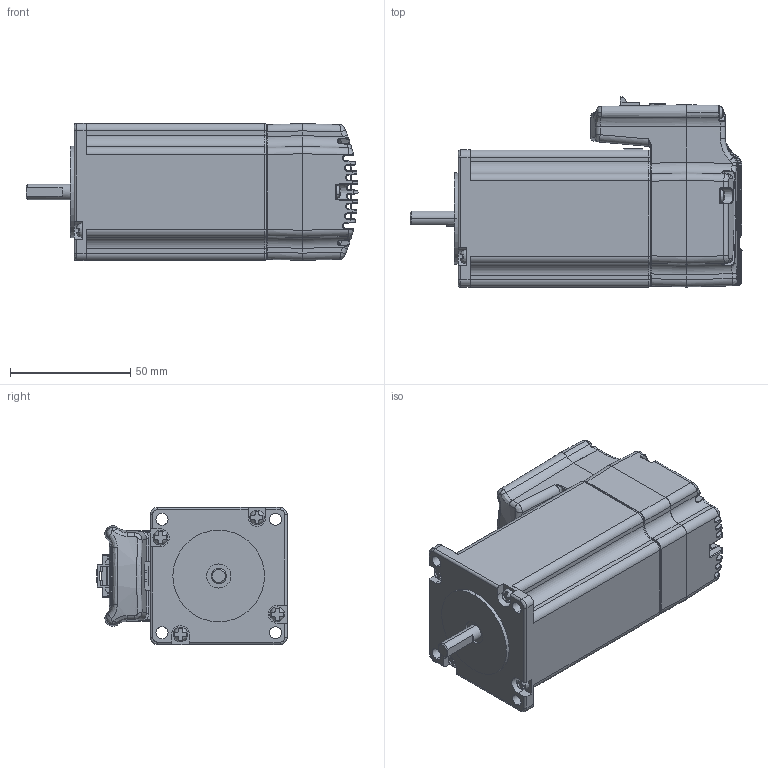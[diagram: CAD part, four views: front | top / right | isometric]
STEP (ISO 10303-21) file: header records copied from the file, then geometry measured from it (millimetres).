
FILE_DESCRIPTION (( 'STEP AP203' ), '1' );
FILE_NAME ('P26-MO-056-03-R00.STEP', '2015-04-15T07:20:54', ( '' ), ( '' ), 'SwSTEP 2.0', 'SolidWorks 2013', '' );
FILE_SCHEMA (( 'CONFIG_CONTROL_DESIGN' ));
Length unit declared in the file: millimetre
Products named in the file (20): 烹脚加档 汲沥 胶困摹; 瞪錳薄樓醴喀攪-4; M15-EC-042-05-R00; round cross head screw_ks_KS 1023 RC - M3 x 20-N; 瞪錳薄樓醴喀攪-5; M15-EC-056-02-R00; M25-MO-056-03-R00(BM-56L-BT-01); RS-232C 鱔褐醴喀攪; M26-EC-056-01-R00; P26-MO-056-03-R00; ﾆﾞｽｺ ﾀﾔｷﾂ ｹ貎ﾄ ｼｳﾁ､ ｽｺﾀｧﾄ｡-1; M16-EC-042-01-R00; ﾆﾞｽｺ ﾀﾔｷﾂ ｹ貎ﾄ ｼｳﾁ､ ｽｺﾀｧﾄ｡-2; ﾀﾔﾃ箙ﾂ ﾁ｢ｼﾓ ﾄｿｳﾘﾅﾍ; 蝶嬪纂-1; 瞪錳薄樓醴喀攪-1; 蝶嬪纂-2; 瞪錳薄樓醴喀攪-2; 匙飘况农 ID 钎矫 棺 惑怕 钎矫; 瞪錳薄樓醴喀攪-3
Assembly tree (24 placements, depth 2):
  P26-MO-056-03-R00
    M15-EC-042-05-R00
    M15-EC-056-02-R00
    M26-EC-056-01-R00
    M16-EC-042-01-R00
    ﾀﾔﾃ箙ﾂ ﾁ｢ｼﾓ ﾄｿｳﾘﾅﾍ
    瞪錳薄樓醴喀攪-1
    瞪錳薄樓醴喀攪-2
    瞪錳薄樓醴喀攪-3
    瞪錳薄樓醴喀攪-4
    瞪錳薄樓醴喀攪-5
    RS-232C 鱔褐醴喀攪  x2
    ﾆﾞｽｺ ﾀﾔｷﾂ ｹ貎ﾄ ｼｳﾁ､ ｽｺﾀｧﾄ｡-1
    ﾆﾞｽｺ ﾀﾔｷﾂ ｹ貎ﾄ ｼｳﾁ､ ｽｺﾀｧﾄ｡-2
    蝶嬪纂-1
    蝶嬪纂-2
    匙飘况农 ID 钎矫 棺 惑怕 钎矫
    烹脚加档 汲沥 胶困摹
    round cross head screw_ks_KS 1023 RC - M3 x 20-N  x5
    M25-MO-056-03-R00(BM-56L-BT-01)
Bounding box: 138 x 79.2 x 57 mm (x, y, z)
Volume: 281546.9 mm3; surface area: 68916 mm2
Topology: 22 solids, 24 shells, 2672 faces, 6982 edges, 4367 vertices
Faces by surface type: plane 1243, cylinder 828, bspline 477, cone 82, torus 32, sphere 10
Entity records: 121691 total; most frequent: CARTESIAN_POINT 66344, ORIENTED_EDGE 12564, DIRECTION 8477, EDGE_CURVE 6301, VERTEX_POINT 3976, LINE 3119, VECTOR 3119, AXIS2_PLACEMENT_3D 2679
